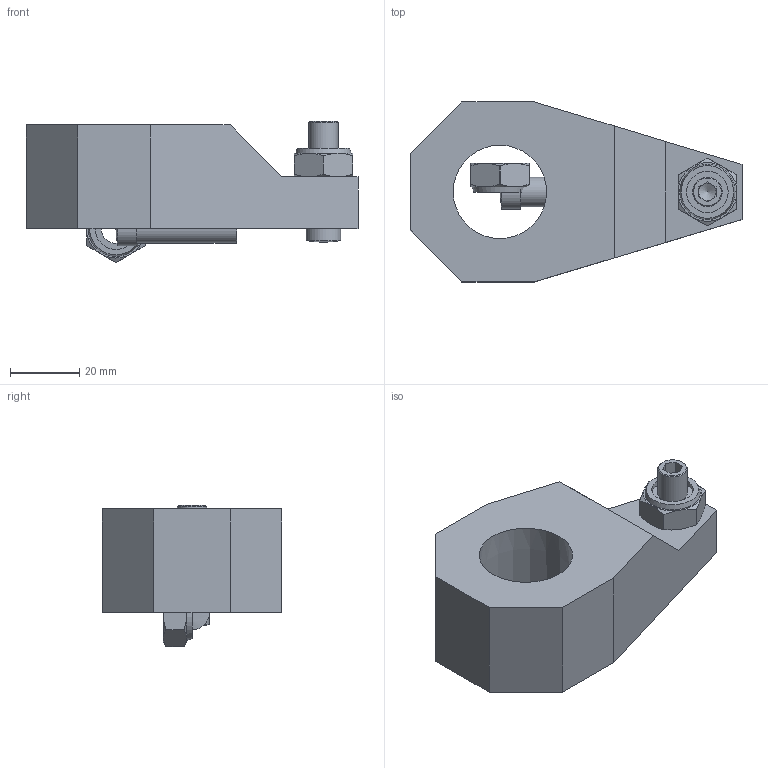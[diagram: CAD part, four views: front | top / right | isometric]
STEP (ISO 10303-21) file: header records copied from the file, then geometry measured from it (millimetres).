
FILE_DESCRIPTION( ( '' ), '1' );
FILE_NAME( 'W:/Catalogue/JF6H/JF6H53_ClampArm/JF6H53_ClampArm.stp', '2008-05-26T01:01:51', ( '機械事業部産業機器グループ' ), ( '豊和工業株式会社' ), 'XStep 1.0', ' ', ' ' );
FILE_SCHEMA( ( 'CONFIG_CONTROL_DESIGN' ) );
Length unit declared in the file: millimetre
Products named in the file (4): Assem1; 1; 2; 3
Bounding box: 96 x 52 x 40.8 mm (x, y, z)
Volume: 165631.8 mm3; surface area: 35659.7 mm2
Topology: 6 solids, 6 shells, 134 faces, 310 edges, 194 vertices
Faces by surface type: plane 74, cone 32, cylinder 26, sphere 2
Full cylindrical faces by diameter (mm): 5 x2, 8.5 x6, 10 x2, 10.5 x2, 12 x2
Entity records: 2068 total; most frequent: CARTESIAN_POINT 438, DIRECTION 304, ORIENTED_EDGE 276, EDGE_CURVE 138, AXIS2_PLACEMENT_3D 119, VERTEX_POINT 93, EDGE_LOOP 88, FACE_OUTER_BOUND 74
